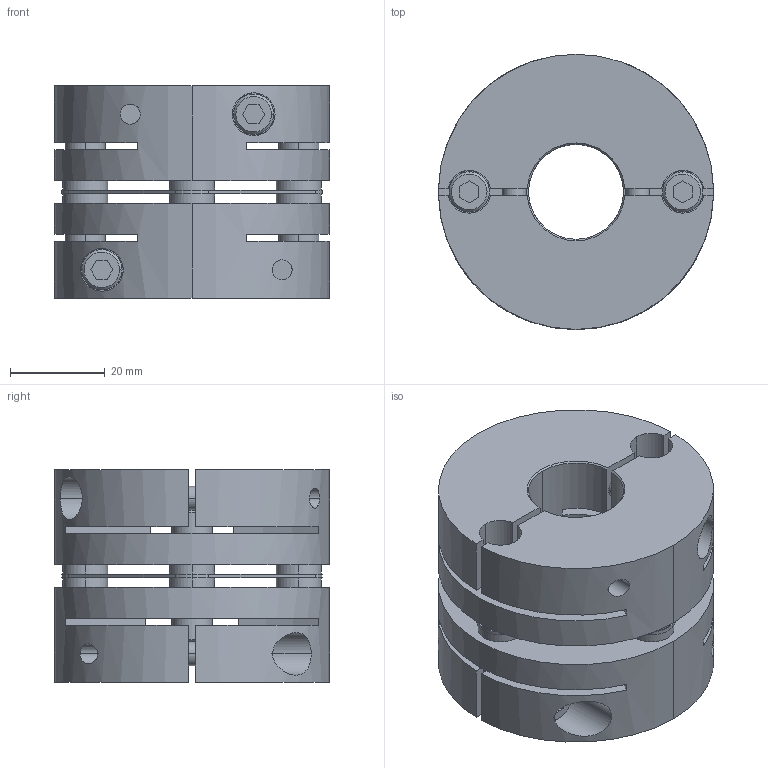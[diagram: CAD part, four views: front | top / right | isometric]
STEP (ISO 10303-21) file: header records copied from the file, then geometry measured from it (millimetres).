
FILE_DESCRIPTION((''),'2;1');
FILE_NAME('LAS-58C-20×22.stp','2015-10-15T14:56:13',(''),(''),'AutoCAD STEP 2000i','AutoCAD 2000i',', , ');
FILE_SCHEMA(('CONFIG_CONTROL_DESIGN'));
Length unit declared in the file: millimetre
Products named in the file (6): LAS-58C-12×19; 忣兜1; LA-5802-D19; LA-5802-D12-1; LA-5802-D12; LAS58-ITA
Assembly tree (5 placements, depth 2):
  LAS-58C-12×19
    忣兜1
    LA-5802-D19
    LA-5802-D12-1
    LA-5802-D12
    LAS58-ITA
Bounding box: 58 x 58 x 44.8 mm (x, y, z)
Volume: 82901.9 mm3; surface area: 32798 mm2
Topology: 1 solids, 1 shells, 238 faces, 618 edges, 404 vertices
Faces by surface type: plane 114, cylinder 96, cone 28
Entity records: 8213 total; most frequent: CARTESIAN_POINT 1988, DIRECTION 1316, ORIENTED_EDGE 1240, EDGE_CURVE 620, AXIS2_PLACEMENT_3D 484, VERTEX_POINT 404, VECTOR 348, LINE 348
